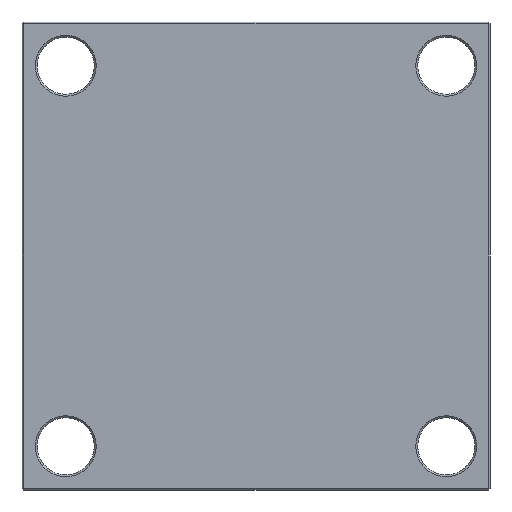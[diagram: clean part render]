
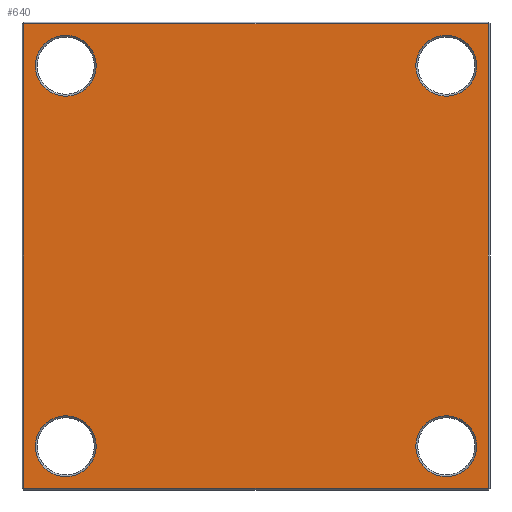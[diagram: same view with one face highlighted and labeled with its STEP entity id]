
A CAD part, front view. The second image highlights one B-rep face of the part: STEP entity #640.
In plain terms, the highlighted planar face has unit normal (0, -1, 0).
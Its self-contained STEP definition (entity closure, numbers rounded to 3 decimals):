
#16 = VERTEX_POINT ( 'NONE', #1268 ) ;
#51 = CARTESIAN_POINT ( 'NONE',  ( 100., 0., -84. ) ) ;
#61 = EDGE_LOOP ( 'NONE', ( #82, #1129 ) ) ;
#82 = ORIENTED_EDGE ( 'NONE', *, *, #1962, .T. ) ;
#100 = LINE ( 'NONE', #1449, #1830 ) ;
#112 = DIRECTION ( 'NONE',  ( 0., 0., -1. ) ) ;
#117 = AXIS2_PLACEMENT_3D ( 'NONE', #960, #1042, #1274 ) ;
#145 = CARTESIAN_POINT ( 'NONE',  ( 0., 0., 0. ) ) ;
#150 = DIRECTION ( 'NONE',  ( -1., 0., 0. ) ) ;
#151 = VECTOR ( 'NONE', #2170, 1000. ) ;
#152 = VECTOR ( 'NONE', #112, 1000. ) ;
#185 = VERTEX_POINT ( 'NONE', #218 ) ;
#211 = FACE_BOUND ( 'NONE', #61, .T. ) ;
#218 = CARTESIAN_POINT ( 'NONE',  ( 100., 0., 116. ) ) ;
#221 = CARTESIAN_POINT ( 'NONE',  ( 0., 0., -122. ) ) ;
#254 = VERTEX_POINT ( 'NONE', #352 ) ;
#313 = EDGE_LOOP ( 'NONE', ( #2029, #1046 ) ) ;
#329 = PLANE ( 'NONE',  #1562 ) ;
#350 = VERTEX_POINT ( 'NONE', #1640 ) ;
#352 = CARTESIAN_POINT ( 'NONE',  ( 122., 0., 122. ) ) ;
#363 = CIRCLE ( 'NONE', #781, 16. ) ;
#393 = CIRCLE ( 'NONE', #117, 16. ) ;
#398 = CIRCLE ( 'NONE', #1396, 16. ) ;
#399 = CARTESIAN_POINT ( 'NONE',  ( -100., 0., 100. ) ) ;
#406 = AXIS2_PLACEMENT_3D ( 'NONE', #1062, #1736, #2050 ) ;
#412 = ORIENTED_EDGE ( 'NONE', *, *, #970, .T. ) ;
#429 = DIRECTION ( 'NONE',  ( 0., 1., 0. ) ) ;
#441 = DIRECTION ( 'NONE',  ( 0., 0., 1. ) ) ;
#463 = ORIENTED_EDGE ( 'NONE', *, *, #757, .T. ) ;
#470 = DIRECTION ( 'NONE',  ( 0., 0., 1. ) ) ;
#481 = VERTEX_POINT ( 'NONE', #619 ) ;
#528 = VERTEX_POINT ( 'NONE', #1265 ) ;
#567 = CARTESIAN_POINT ( 'NONE',  ( 0., 0., 122. ) ) ;
#606 = DIRECTION ( 'NONE',  ( 0., 1., 0. ) ) ;
#619 = CARTESIAN_POINT ( 'NONE',  ( -100., 0., 84. ) ) ;
#640 = ADVANCED_FACE ( 'NONE', ( #1560, #773, #1614, #211, #1936 ), #329, .F. ) ;
#647 = CIRCLE ( 'NONE', #1079, 16. ) ;
#663 = AXIS2_PLACEMENT_3D ( 'NONE', #399, #429, #470 ) ;
#669 = VERTEX_POINT ( 'NONE', #1004 ) ;
#681 = ORIENTED_EDGE ( 'NONE', *, *, #1425, .T. ) ;
#692 = ORIENTED_EDGE ( 'NONE', *, *, #1643, .T. ) ;
#723 = CARTESIAN_POINT ( 'NONE',  ( 100., 0., 100. ) ) ;
#757 = EDGE_CURVE ( 'NONE', #185, #669, #398, .T. ) ;
#761 = AXIS2_PLACEMENT_3D ( 'NONE', #723, #606, #441 ) ;
#773 = FACE_BOUND ( 'NONE', #313, .T. ) ;
#781 = AXIS2_PLACEMENT_3D ( 'NONE', #1777, #1782, #1934 ) ;
#862 = EDGE_CURVE ( 'NONE', #254, #16, #992, .T. ) ;
#866 = AXIS2_PLACEMENT_3D ( 'NONE', #918, #888, #2095 ) ;
#884 = VECTOR ( 'NONE', #150, 1000. ) ;
#888 = DIRECTION ( 'NONE',  ( 0., 1., 0. ) ) ;
#918 = CARTESIAN_POINT ( 'NONE',  ( -100., 0., 100. ) ) ;
#960 = CARTESIAN_POINT ( 'NONE',  ( 100., 0., -100. ) ) ;
#965 = CARTESIAN_POINT ( 'NONE',  ( -122., 0., 0. ) ) ;
#970 = EDGE_CURVE ( 'NONE', #1504, #2116, #1507, .T. ) ;
#989 = EDGE_LOOP ( 'NONE', ( #1025, #1523 ) ) ;
#992 = LINE ( 'NONE', #567, #884 ) ;
#1004 = CARTESIAN_POINT ( 'NONE',  ( 100., 0., 84. ) ) ;
#1025 = ORIENTED_EDGE ( 'NONE', *, *, #1851, .T. ) ;
#1035 = DIRECTION ( 'NONE',  ( 0., 1., 0. ) ) ;
#1042 = DIRECTION ( 'NONE',  ( 0., 1., 0. ) ) ;
#1046 = ORIENTED_EDGE ( 'NONE', *, *, #1558, .T. ) ;
#1049 = VERTEX_POINT ( 'NONE', #1080 ) ;
#1062 = CARTESIAN_POINT ( 'NONE',  ( -100., 0., -100. ) ) ;
#1079 = AXIS2_PLACEMENT_3D ( 'NONE', #2115, #2110, #2103 ) ;
#1080 = CARTESIAN_POINT ( 'NONE',  ( -100., 0., -116. ) ) ;
#1129 = ORIENTED_EDGE ( 'NONE', *, *, #1590, .T. ) ;
#1176 = CARTESIAN_POINT ( 'NONE',  ( 100., 0., 100. ) ) ;
#1181 = ORIENTED_EDGE ( 'NONE', *, *, #1576, .T. ) ;
#1187 = LINE ( 'NONE', #965, #152 ) ;
#1200 = DIRECTION ( 'NONE',  ( 0., 1., 0. ) ) ;
#1201 = EDGE_LOOP ( 'NONE', ( #692, #463 ) ) ;
#1225 = DIRECTION ( 'NONE',  ( 0., 0., 1. ) ) ;
#1258 = CIRCLE ( 'NONE', #663, 16. ) ;
#1265 = CARTESIAN_POINT ( 'NONE',  ( -100., 0., 116. ) ) ;
#1268 = CARTESIAN_POINT ( 'NONE',  ( -122., 0., 122. ) ) ;
#1274 = DIRECTION ( 'NONE',  ( 0., 0., 1. ) ) ;
#1396 = AXIS2_PLACEMENT_3D ( 'NONE', #1176, #1200, #1225 ) ;
#1425 = EDGE_CURVE ( 'NONE', #2116, #254, #100, .T. ) ;
#1449 = CARTESIAN_POINT ( 'NONE',  ( 122., 0., 0. ) ) ;
#1504 = VERTEX_POINT ( 'NONE', #1612 ) ;
#1507 = LINE ( 'NONE', #221, #151 ) ;
#1523 = ORIENTED_EDGE ( 'NONE', *, *, #1980, .T. ) ;
#1542 = CIRCLE ( 'NONE', #761, 16. ) ;
#1558 = EDGE_CURVE ( 'NONE', #1796, #1666, #393, .T. ) ;
#1560 = FACE_BOUND ( 'NONE', #989, .T. ) ;
#1562 = AXIS2_PLACEMENT_3D ( 'NONE', #145, #1035, #1875 ) ;
#1569 = EDGE_LOOP ( 'NONE', ( #681, #1578, #1181, #412 ) ) ;
#1576 = EDGE_CURVE ( 'NONE', #16, #1504, #1187, .T. ) ;
#1578 = ORIENTED_EDGE ( 'NONE', *, *, #862, .T. ) ;
#1590 = EDGE_CURVE ( 'NONE', #528, #481, #1636, .T. ) ;
#1607 = CARTESIAN_POINT ( 'NONE',  ( 122., 0., -122. ) ) ;
#1612 = CARTESIAN_POINT ( 'NONE',  ( -122., 0., -122. ) ) ;
#1614 = FACE_BOUND ( 'NONE', #1201, .T. ) ;
#1636 = CIRCLE ( 'NONE', #866, 16. ) ;
#1640 = CARTESIAN_POINT ( 'NONE',  ( -100., 0., -84. ) ) ;
#1643 = EDGE_CURVE ( 'NONE', #669, #185, #1542, .T. ) ;
#1653 = EDGE_CURVE ( 'NONE', #1666, #1796, #647, .T. ) ;
#1666 = VERTEX_POINT ( 'NONE', #2079 ) ;
#1721 = DIRECTION ( 'NONE',  ( 0., 0., 1. ) ) ;
#1736 = DIRECTION ( 'NONE',  ( 0., 1., 0. ) ) ;
#1777 = CARTESIAN_POINT ( 'NONE',  ( -100., 0., -100. ) ) ;
#1782 = DIRECTION ( 'NONE',  ( 0., 1., 0. ) ) ;
#1796 = VERTEX_POINT ( 'NONE', #51 ) ;
#1830 = VECTOR ( 'NONE', #1721, 1000. ) ;
#1851 = EDGE_CURVE ( 'NONE', #1049, #350, #1883, .T. ) ;
#1875 = DIRECTION ( 'NONE',  ( 0., 0., 1. ) ) ;
#1883 = CIRCLE ( 'NONE', #406, 16. ) ;
#1934 = DIRECTION ( 'NONE',  ( 0., 0., 1. ) ) ;
#1936 = FACE_OUTER_BOUND ( 'NONE', #1569, .T. ) ;
#1962 = EDGE_CURVE ( 'NONE', #481, #528, #1258, .T. ) ;
#1980 = EDGE_CURVE ( 'NONE', #350, #1049, #363, .T. ) ;
#2029 = ORIENTED_EDGE ( 'NONE', *, *, #1653, .T. ) ;
#2050 = DIRECTION ( 'NONE',  ( 0., 0., 1. ) ) ;
#2079 = CARTESIAN_POINT ( 'NONE',  ( 100., 0., -116. ) ) ;
#2095 = DIRECTION ( 'NONE',  ( 0., 0., 1. ) ) ;
#2103 = DIRECTION ( 'NONE',  ( 0., 0., 1. ) ) ;
#2110 = DIRECTION ( 'NONE',  ( 0., 1., 0. ) ) ;
#2115 = CARTESIAN_POINT ( 'NONE',  ( 100., 0., -100. ) ) ;
#2116 = VERTEX_POINT ( 'NONE', #1607 ) ;
#2170 = DIRECTION ( 'NONE',  ( 1., 0., 0. ) ) ;
